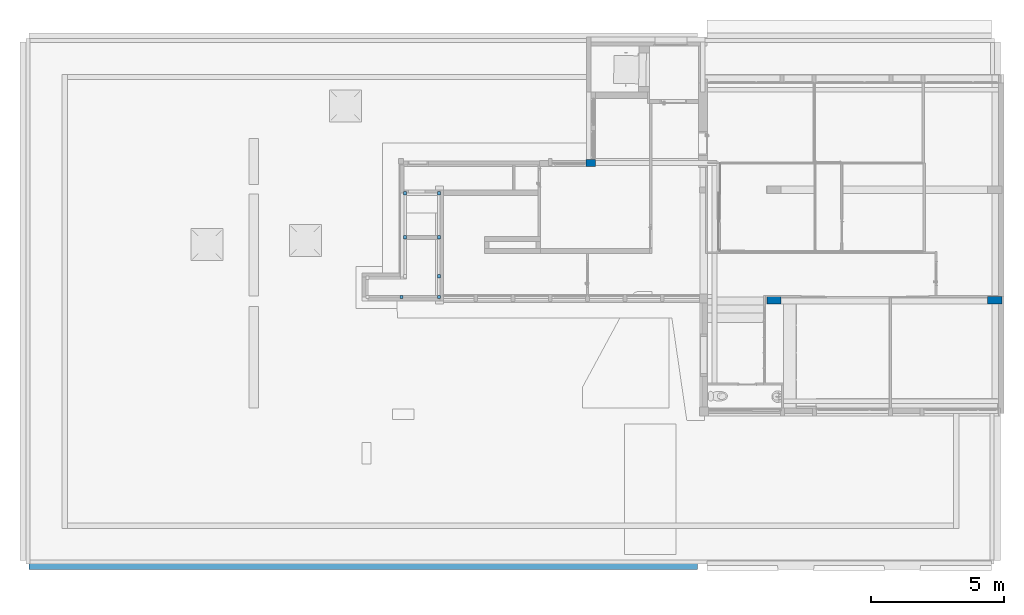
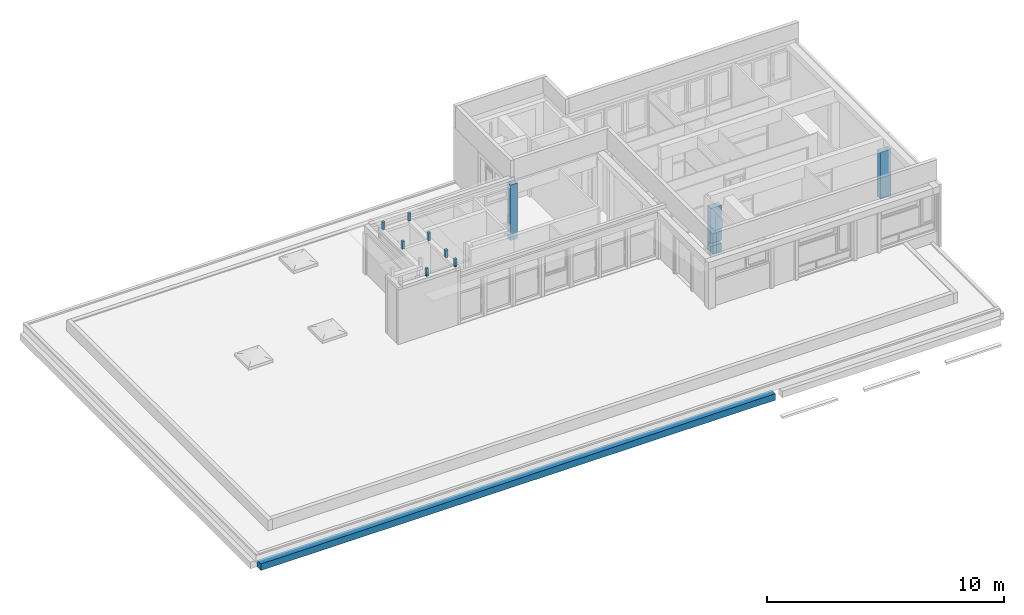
# One storey, part 2 of 49: 10 columns, 1 beam.
"""IFC4 building model written with IfcOpenShell, lengths in metres."""

import ifcopenshell
import ifcopenshell.guid

model = None  # the IFC model being written
_history = None  # IfcOwnerHistory: only IFC2X3 demands one
_inside = {}  # id of a spatial element -> (the spatial element, [elements in it])
_under = {}  # id of a project, library or spatial element -> (it, [spatial elements below it])
_declared = {}  # id of a project -> (the project, [libraries it declares])
_typed = {}  # id of a type object -> (the type object, [elements of that type])
_made_of = {}  # id of a material, layer set ... -> (it, [elements and type objects made of it])


def new_model(schema):
    """Start an empty IFC model of exactly this schema.

    Asked for "IFC4X3", IfcOpenShell would pick the latest addendum, in which some entities
    have other attributes; the version numbers below select the first issue.
    IFC2X3 requires an IfcOwnerHistory on every rooted entity: one is made here for all.
    """
    global model, _history
    if schema == "IFC4X3":
        model = ifcopenshell.file(schema_version=(4, 3, 0, 0))
    else:
        model = ifcopenshell.file(schema=schema)
    _inside.clear()
    _under.clear()
    _declared.clear()
    _typed.clear()
    _made_of.clear()
    _history = None
    if model.schema == "IFC2X3":
        org = make("IfcOrganization", Name="unknown")
        user = make(
            "IfcPersonAndOrganization",
            ThePerson=make("IfcPerson", FamilyName="unknown"),
            TheOrganization=org,
        )
        app = make(
            "IfcApplication",
            ApplicationDeveloper=org,
            Version="unknown",
            ApplicationFullName="unknown",
            ApplicationIdentifier="unknown",
        )
        _history = make(
            "IfcOwnerHistory",
            OwningUser=user,
            OwningApplication=app,
            ChangeAction="ADDED",
            CreationDate=0,
        )
    return model


def make(cls, **values):
    """One entity of the class cls with the attributes given. An attribute that is None is left unset."""
    return model.create_entity(
        cls, **{name: value for name, value in values.items() if value is not None}
    )


def entity(cls, *values):
    """Any entity or typed value of the class cls, its attributes in the order of the schema. None: left unset."""
    e = model.create_entity(cls)
    for i, value in enumerate(values):
        if value is not None:
            e[i] = value
    return e


def rooted(cls, **values):
    """An entity with a GlobalId (a new one), such as an element, a storey or a relation."""
    return make(cls, GlobalId=ifcopenshell.guid.new(), OwnerHistory=_history, **values)


def si_unit(unit_type, name, prefix=None):
    """IfcSIUnit, for example si_unit("LENGTHUNIT", "METRE", prefix="MILLI")."""
    return make("IfcSIUnit", UnitType=unit_type, Prefix=prefix, Name=name)


def converted_unit(unit_type, name, factor, base, dimensions=None, offset=None):
    """IfcConversionBasedUnit, such as the inch: factor (a typed value) times the base unit."""
    return make(
        "IfcConversionBasedUnit"
        if offset is None
        else "IfcConversionBasedUnitWithOffset",
        ConversionOffset=offset,
        Dimensions=None
        if dimensions is None
        else entity("IfcDimensionalExponents", *dimensions),
        UnitType=unit_type,
        Name=name,
        ConversionFactor=make(
            "IfcMeasureWithUnit", ValueComponent=factor, UnitComponent=base
        ),
    )


def derived_unit(unit_type, elements):
    """IfcDerivedUnit: a product of units, each with its exponent."""
    return make(
        "IfcDerivedUnit",
        Elements=[
            make("IfcDerivedUnitElement", Unit=unit, Exponent=power)
            for unit, power in elements
        ],
        UnitType=unit_type,
    )


def assignment(units):
    """IfcUnitAssignment: the units of a project."""
    return None if units is None else make("IfcUnitAssignment", Units=units)


def point(xyz):
    """IfcCartesianPoint."""
    return None if xyz is None else make("IfcCartesianPoint", Coordinates=xyz)


def direction(xyz):
    """IfcDirection."""
    return None if xyz is None else make("IfcDirection", DirectionRatios=xyz)


def frame(location, z_axis=None, x_axis=None):
    """IfcAxis2Placement3D, a coordinate frame: its origin and axes. An axis left out is left unset."""
    return make(
        "IfcAxis2Placement3D",
        Location=point(location),
        Axis=direction(z_axis),
        RefDirection=direction(x_axis),
    )


def origin():
    """The frame at (0, 0, 0) with its axes left unset."""
    return frame((0.0, 0.0, 0.0))


def place(relative_to, where):
    """IfcLocalPlacement: puts the frame where relative to a parent placement (None: the world)."""
    return make(
        "IfcLocalPlacement", PlacementRelTo=relative_to, RelativePlacement=where
    )


def context(
    kind, dimensions, precision=None, world=None, true_north=None, identifier=None
):
    """IfcGeometricRepresentationContext, for example the 3D "Model" context."""
    return make(
        "IfcGeometricRepresentationContext",
        ContextIdentifier=identifier,
        ContextType=kind,
        CoordinateSpaceDimension=dimensions,
        Precision=precision,
        WorldCoordinateSystem=world,
        TrueNorth=true_north,
    )


def subcontext(parent, identifier, kind, view, scale=None):
    """IfcGeometricRepresentationSubContext, for example "Body" below "Model"."""
    return make(
        "IfcGeometricRepresentationSubContext",
        ContextIdentifier=identifier,
        ContextType=kind,
        ParentContext=parent,
        TargetScale=scale,
        TargetView=view,
    )


def project(units=None, contexts=None):
    """IfcProject with its units and contexts."""
    return rooted(
        "IfcProject",
        Name="project",
        RepresentationContexts=contexts,
        UnitsInContext=assignment(units),
    )


def spatial(cls, under=None, at=None, **own):
    """A site, building, storey or space (cls), placed at a placement, below another one or the project."""
    s = rooted(cls, ObjectPlacement=at, **own)
    if under is not None:
        _under.setdefault(under.id(), (under, []))[1].append(s)
    return s


def point_list(points):
    """IfcCartesianPointList2D or 3D."""
    cls = (
        "IfcCartesianPointList2D" if len(points[0]) == 2 else "IfcCartesianPointList3D"
    )
    return make(cls, CoordList=points)


def indexed_curve(points, segments=None, self_intersect=None):
    """IfcIndexedPolyCurve: lines and arcs through numbered points (the first is 1)."""
    return make(
        "IfcIndexedPolyCurve",
        Points=point_list(points),
        Segments=segments,
        SelfIntersect=self_intersect,
    )


def outline(outer, holes=None, kind="AREA"):
    """IfcArbitraryClosedProfileDef: a profile drawn as a closed curve; with holes, ...WithVoids."""
    if holes is None:
        return make("IfcArbitraryClosedProfileDef", ProfileType=kind, OuterCurve=outer)
    return make(
        "IfcArbitraryProfileDefWithVoids",
        ProfileType=kind,
        OuterCurve=outer,
        InnerCurves=holes,
    )


def extrude(swept, where, along, depth):
    """IfcExtrudedAreaSolid: the profile swept, set in the frame where, extruded along a direction by depth."""
    return make(
        "IfcExtrudedAreaSolid",
        SweptArea=swept,
        Position=where,
        ExtrudedDirection=direction(along),
        Depth=depth,
    )


def polygons(points, faces, closed=None, point_numbers=None):
    """IfcPolygonalFaceSet: a face is its outer loop, then its inner loops; points numbered from 1."""
    made = []
    for loops in faces:
        if len(loops) == 1:
            made.append(make("IfcIndexedPolygonalFace", CoordIndex=loops[0]))
        else:
            made.append(
                make(
                    "IfcIndexedPolygonalFaceWithVoids",
                    CoordIndex=loops[0],
                    InnerCoordIndices=loops[1:],
                )
            )
    return make(
        "IfcPolygonalFaceSet",
        Coordinates=point_list(points),
        Closed=closed,
        Faces=made,
        PnIndex=point_numbers,
    )


def shape(context_of_items, identifier, shape_type, items):
    """IfcShapeRepresentation: the items that make up one representation, for example the "Body"."""
    return make(
        "IfcShapeRepresentation",
        ContextOfItems=context_of_items,
        RepresentationIdentifier=identifier,
        RepresentationType=shape_type,
        Items=items,
    )


def source(mapping_origin, context_of_items, identifier, shape_type, items):
    """IfcRepresentationMap: a shape defined once, which mapped items show again and again."""
    return make(
        "IfcRepresentationMap",
        MappingOrigin=mapping_origin,
        MappedRepresentation=shape(context_of_items, identifier, shape_type, items),
    )


def transform(
    local_origin,
    x_axis=None,
    y_axis=None,
    z_axis=None,
    scale=None,
    scale2=None,
    scale3=None,
    uniform=True,
):
    """IfcCartesianTransformationOperator3D, or its non-uniform kind. x_axis, y_axis, z_axis: its Axis1, 2, 3."""
    if uniform:
        return make(
            "IfcCartesianTransformationOperator3D",
            Axis1=direction(x_axis),
            Axis2=direction(y_axis),
            LocalOrigin=point(local_origin),
            Scale=scale,
            Axis3=direction(z_axis),
        )
    return make(
        "IfcCartesianTransformationOperator3DnonUniform",
        Axis1=direction(x_axis),
        Axis2=direction(y_axis),
        LocalOrigin=point(local_origin),
        Scale=scale,
        Axis3=direction(z_axis),
        Scale2=scale2,
        Scale3=scale3,
    )


def mapped(mapping_source, mapping_target):
    """IfcMappedItem: shows the shape of a source again, moved by a transform."""
    return make(
        "IfcMappedItem", MappingSource=mapping_source, MappingTarget=mapping_target
    )


def material(Name=None, Category=None):
    """IfcMaterial."""
    return make("IfcMaterial", Name=Name, Category=Category)


def made_of(thing, what):
    """Note that an element or type object is made of a material, layer set ...; save() writes the relation."""
    if what is not None:
        _made_of.setdefault(what.id(), (what, []))[1].append(thing)
    return thing


def type_object(cls, material=None, **own):
    """A type object (cls), such as IfcWallType, which elements share."""
    return made_of(rooted(cls, **own), material)


def type_shapes(of_type, sources):
    """Give a type object the sources (RepresentationMaps) that its elements show as mapped items."""
    of_type.RepresentationMaps = sources


def element(
    cls,
    number,
    at=None,
    inside=None,
    cuts=None,
    type_object=None,
    material=None,
    context=None,
    identifier="Body",
    shape_type=None,
    held_by="IfcProductDefinitionShape",
    body=None,
    shapes=None,
    **own,
):
    """One element of the class cls, such as IfcWall. Its Tag is "e" and its number.

    at: its placement. inside: the storey or other place that contains it. cuts: it is an
    opening in that element (IfcRelVoidsElement). A single representation is given by context,
    identifier, shape_type and body (its items); several are given by shapes. held_by: the class
    of the entity that holds the representations. save() writes the other relations.
    """
    e = rooted(cls, Tag="e%d" % number, ObjectPlacement=at, **own)
    if body is not None:
        shapes = [shape(context, identifier, shape_type, body)]
    if shapes is not None:
        e.Representation = make(held_by, Representations=shapes)
    if inside is not None:
        _inside.setdefault(inside.id(), (inside, []))[1].append(e)
    if cuts is not None:
        rooted(
            "IfcRelVoidsElement", RelatingBuildingElement=cuts, RelatedOpeningElement=e
        )
    if type_object is not None:
        _typed.setdefault(type_object.id(), (type_object, []))[1].append(e)
    return made_of(e, material)


def aggregate(whole, parts):
    """IfcRelAggregates: a whole, such as a stair, and the parts it consists of."""
    return rooted("IfcRelAggregates", RelatingObject=whole, RelatedObjects=parts)


def save(model, path):
    """Write the relations noted so far, then the file.

    IfcRelAggregates (storeys below a building ...), IfcRelContainedInSpatialStructure (elements
    in a storey), IfcRelDefinesByType, IfcRelAssociatesMaterial and IfcRelDeclares: one each for
    every whole, place, type object, material and project.
    """
    for whole, parts in _under.values():
        aggregate(whole, parts)
    for where, things in _inside.values():
        rooted(
            "IfcRelContainedInSpatialStructure",
            RelatedElements=things,
            RelatingStructure=where,
        )
    for kind, things in _typed.values():
        rooted("IfcRelDefinesByType", RelatedObjects=things, RelatingType=kind)
    for what, things in _made_of.values():
        rooted("IfcRelAssociatesMaterial", RelatedObjects=things, RelatingMaterial=what)
    for by, libraries in _declared.values():
        rooted("IfcRelDeclares", RelatingContext=by, RelatedDefinitions=libraries)
    model.write(path)


model = new_model("IFC4")

# Units and contexts
model_context = context("Model", 3, precision=1e-05, world=origin(), true_north=direction((6.12303176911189e-17, 1.0)))
body_context = subcontext(model_context, "Body", "Model", "MODEL_VIEW")
ifc_project = project(units=[si_unit("LENGTHUNIT", "METRE"), si_unit("AREAUNIT", "SQUARE_METRE"), si_unit("VOLUMEUNIT", "CUBIC_METRE"), converted_unit("PLANEANGLEUNIT", "DEGREE", entity("IfcRatioMeasure", 0.0174532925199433), si_unit("PLANEANGLEUNIT", "RADIAN"), dimensions=[0, 0, 0, 0, 0, 0, 0]), si_unit("MASSUNIT", "GRAM", prefix="KILO"), derived_unit("MASSDENSITYUNIT", [(si_unit("MASSUNIT", "GRAM", prefix="KILO"), 1), (si_unit("LENGTHUNIT", "METRE"), -3)]), derived_unit("MOMENTOFINERTIAUNIT", [(si_unit("LENGTHUNIT", "METRE"), 4)]), si_unit("TIMEUNIT", "SECOND"), si_unit("FREQUENCYUNIT", "HERTZ"), si_unit("THERMODYNAMICTEMPERATUREUNIT", "DEGREE_CELSIUS"), derived_unit("THERMALTRANSMITTANCEUNIT", [(si_unit("MASSUNIT", "GRAM", prefix="KILO"), 1), (si_unit("THERMODYNAMICTEMPERATUREUNIT", "KELVIN"), -1), (si_unit("TIMEUNIT", "SECOND"), -3)]), derived_unit("VOLUMETRICFLOWRATEUNIT", [(si_unit("LENGTHUNIT", "METRE"), 3), (si_unit("TIMEUNIT", "SECOND"), -1)]), si_unit("ELECTRICCURRENTUNIT", "AMPERE"), si_unit("ELECTRICVOLTAGEUNIT", "VOLT"), si_unit("POWERUNIT", "WATT"), si_unit("FORCEUNIT", "NEWTON", prefix="KILO"), si_unit("ILLUMINANCEUNIT", "LUX"), si_unit("LUMINOUSFLUXUNIT", "LUMEN"), si_unit("LUMINOUSINTENSITYUNIT", "CANDELA"), derived_unit("USERDEFINED", [(si_unit("MASSUNIT", "GRAM", prefix="KILO"), -1), (si_unit("LENGTHUNIT", "METRE"), -2), (si_unit("TIMEUNIT", "SECOND"), 3), (si_unit("LUMINOUSFLUXUNIT", "LUMEN"), 1)]), derived_unit("LINEARVELOCITYUNIT", [(si_unit("LENGTHUNIT", "METRE"), 1), (si_unit("TIMEUNIT", "SECOND"), -1)]), si_unit("PRESSUREUNIT", "PASCAL"), derived_unit("USERDEFINED", [(si_unit("LENGTHUNIT", "METRE"), -2), (si_unit("MASSUNIT", "GRAM", prefix="KILO"), 1), (si_unit("TIMEUNIT", "SECOND"), -2)]), derived_unit("LINEARFORCEUNIT", [(si_unit("MASSUNIT", "GRAM", prefix="KILO"), 1), (si_unit("LENGTHUNIT", "METRE"), 1), (si_unit("TIMEUNIT", "SECOND"), -2), (si_unit("LENGTHUNIT", "METRE"), -1)]), derived_unit("PLANARFORCEUNIT", [(si_unit("MASSUNIT", "GRAM", prefix="KILO"), 1), (si_unit("LENGTHUNIT", "METRE"), 1), (si_unit("TIMEUNIT", "SECOND"), -2), (si_unit("LENGTHUNIT", "METRE"), -2)])], contexts=[model_context])

# Site, building, storey
site_placement = place(None, origin())
site = spatial("IfcSite", under=ifc_project, at=site_placement, Name="Default", CompositionType="ELEMENT")
building_placement = place(site_placement, origin())
building = spatial("IfcBuilding", under=site, at=building_placement, Name="HOTEL CONSULAIRE BOULOGNE SUR MER", CompositionType="ELEMENT")
storey_placement = place(building_placement, frame((0.0, 0.0, 6.81974152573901)))
storey = spatial("IfcBuildingStorey", under=building, at=storey_placement, Name="Niveau 2", CompositionType="ELEMENT", Elevation=6.81974152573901)

# Columns
ifc_material_1 = material(Name="Maçonnerie - Béton coulé sur place", Category="Béton")
column_type_1 = type_object("IfcColumnType", Name="Poteau béton - Rectangulaire:270x530", PredefinedType="COLUMN", material=ifc_material_1)
shared_shape_1 = source(origin(), body_context, "Body", "Tessellation", [
    polygons([(4.33146851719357e-15, 0.269999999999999, 1.08286712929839e-15), (0.402000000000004, 0.269999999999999, 1.08286712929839e-15), (0.482000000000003, 0.269999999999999, 1.08286712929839e-15), (0.530000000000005, 0.269999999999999, 1.08286712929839e-15), (0.530000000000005, 0.0, 1.08286712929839e-15), (0.482000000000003, 0.0, 1.08286712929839e-15), (0.482000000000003, 0.232754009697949, 1.08286712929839e-15), (4.33146851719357e-15, 0.232754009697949, 1.08286712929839e-15), (4.33146851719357e-15, 0.269999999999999, 2.437), (0.472702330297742, 0.269999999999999, 2.437), (0.530000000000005, 0.269999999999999, 2.437), (0.530000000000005, 0.0, 2.437), (0.472702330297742, 0.0, 2.437), (4.33146851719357e-15, 0.0, 2.437), (4.33146851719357e-15, 0.0, 0.0350000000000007), (0.402000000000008, 0.0, 0.0350000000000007), (0.482000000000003, 0.0, 0.0350000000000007), (4.33146851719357e-15, 0.232754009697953, 0.0350000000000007), (4.33146851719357e-15, 0.232754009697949, 2.437), (0.482000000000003, 0.232754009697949, 0.0350000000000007)], [[[7, 8, 1, 2, 3, 4, 5, 6]], [[16, 15, 18, 20, 17]], [[10, 11, 4, 3, 2, 1, 9]], [[11, 12, 5, 4]], [[14, 15, 16, 17, 6, 5, 12, 13]], [[18, 8, 7, 20]], [[19, 9, 1, 8, 18, 15, 14]], [[20, 7, 6, 17]], [[10, 9, 19, 14, 13, 12, 11]]], closed=True),
])
type_shapes(column_type_1, [shared_shape_1])
column_1_placement = place(storey_placement, frame((22.185935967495, -19.915909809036, -0.0350000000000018)))
element("IfcColumn", 1, at=column_1_placement, inside=storey, type_object=column_type_1, material=ifc_material_1, Name="Poteau béton - Rectangulaire:270x530", ObjectType="Poteau béton - Rectangulaire:270x530", PredefinedType="COLUMN", context=body_context, shape_type="MappedRepresentation", body=[
    mapped(shared_shape_1, transform((0.0, 0.0, 0.0), scale=1.0)),
])
column_type_2 = type_object("IfcColumnType", Name="Poteau béton - Rectangulaire:270x530", PredefinedType="COLUMN", material=ifc_material_1)
shared_shape_2 = source(origin(), body_context, "Body", "Tessellation", [
    polygons([(0.0, 0.269999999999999, 1.08286712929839e-15), (0.530000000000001, 0.269999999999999, 1.08286712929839e-15), (0.530000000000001, 0.232754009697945, 1.08286712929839e-15), (0.530000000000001, 0.0, 1.08286712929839e-15), (0.0, 0.0, 1.08286712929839e-15), (0.0, 0.232754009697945, 1.08286712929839e-15), (0.0, 0.269999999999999, 2.437), (0.530000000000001, 0.269999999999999, 2.437), (0.530000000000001, 0.232754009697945, 2.437), (0.530000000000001, 0.0, 2.437), (0.530000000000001, 0.0, 0.630000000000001), (0.530000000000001, 0.201883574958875, 0.630000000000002), (0.530000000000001, 0.201883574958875, 0.480000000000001), (0.530000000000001, 0.0, 0.480000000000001), (0.0, 0.0, 2.437), (0.0, 0.0, 0.630000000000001), (0.0, 0.0, 0.480000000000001), (0.0, 0.201883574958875, 0.480000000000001), (0.0, 0.201883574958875, 0.630000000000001), (0.0, 0.232754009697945, 2.437)], [[[4, 5, 6, 1, 2, 3]], [[16, 19, 12, 11]], [[7, 8, 2, 1]], [[10, 11, 12, 13, 14, 4, 3, 2, 8, 9]], [[10, 15, 16, 11]], [[19, 18, 13, 12]], [[14, 17, 5, 4]], [[20, 7, 1, 6, 5, 17, 18, 19, 16, 15]], [[9, 8, 7, 20, 15, 10]], [[14, 13, 18, 17]]], closed=True),
])
type_shapes(column_type_2, [shared_shape_2])
column_2_placement = place(storey_placement, frame((13.9022130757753, -19.915909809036, -0.0350000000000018)))
element("IfcColumn", 2, at=column_2_placement, inside=storey, type_object=column_type_2, material=ifc_material_1, Name="Poteau béton - Rectangulaire:270x530", ObjectType="Poteau béton - Rectangulaire:270x530", PredefinedType="COLUMN", context=body_context, shape_type="MappedRepresentation", body=[
    mapped(shared_shape_2, transform((0.0, 0.0, 0.0), scale=1.0)),
])
ifc_material_2 = material(Name="Acier", Category="Métal")
column_type_3 = type_object("IfcColumnType", Name="poteau:poteau", PredefinedType="COLUMN", material=ifc_material_2)
shared_shape_3 = source(origin(), body_context, "Body", "SweptSolid", [
    extrude(outline(indexed_curve([(-0.0600000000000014, -0.0550000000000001), (0.0599999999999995, -0.0550000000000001), (0.0599999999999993, 0.055), (-0.0600000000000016, 0.055), (-0.0600000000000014, -0.0550000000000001)], self_intersect=False)), frame((0.196635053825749, -15.6952420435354, 10.411641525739), z_axis=(0.0, 0.0, 1.0), x_axis=(0.0, -1.0, 0.0)), (0.0, 0.0, 1.0), 0.393099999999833),
])
type_shapes(column_type_3, [shared_shape_3])
column_3_placement = place(storey_placement, frame((0.130000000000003, -0.072000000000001, -6.81974152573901)))
element("IfcColumn", 3, at=column_3_placement, inside=storey, type_object=column_type_3, material=ifc_material_2, Name="poteau:poteau", ObjectType="poteau:poteau", PredefinedType="COLUMN", context=body_context, shape_type="MappedRepresentation", body=[
    mapped(shared_shape_3, transform((0.0, 0.0, 0.0), scale=1.0)),
])
column_type_4 = type_object("IfcColumnType", Name="poteau2:poteau", PredefinedType="COLUMN", material=ifc_material_2)
shared_shape_4 = source(origin(), body_context, "Body", "SweptSolid", [
    extrude(outline(indexed_curve([(-0.0600000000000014, -0.0550000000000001), (0.0599999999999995, -0.0550000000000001), (0.0599999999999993, 0.055), (-0.0600000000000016, 0.055), (-0.0600000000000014, -0.0550000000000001)], self_intersect=False)), frame((0.196635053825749, -15.6952420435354, 10.411641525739), z_axis=(0.0, 0.0, 1.0), x_axis=(0.0, -1.0, 0.0)), (0.0, 0.0, 1.0), 0.393099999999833),
])
type_shapes(column_type_4, [shared_shape_4])
column_4_placement = place(storey_placement, frame((1.39583625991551, -0.0720000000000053, -6.81974152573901)))
element("IfcColumn", 4, at=column_4_placement, inside=storey, type_object=column_type_4, material=ifc_material_2, Name="poteau2:poteau", ObjectType="poteau2:poteau", PredefinedType="COLUMN", context=body_context, shape_type="MappedRepresentation", body=[
    mapped(shared_shape_4, transform((0.0, 0.0, 0.0), scale=1.0)),
])
column_type_5 = type_object("IfcColumnType", Name="poteau1:poteau", PredefinedType="COLUMN", material=ifc_material_2)
shared_shape_5 = source(origin(), body_context, "Body", "SweptSolid", [
    extrude(outline(indexed_curve([(-0.0600000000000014, -0.0550000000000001), (0.0599999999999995, -0.0550000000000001), (0.0599999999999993, 0.055), (-0.0600000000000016, 0.055), (-0.0600000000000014, -0.0550000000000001)], self_intersect=False)), frame((0.196635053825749, -15.6952420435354, 10.411641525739), z_axis=(0.0, 0.0, 1.0), x_axis=(0.0, -1.0, 0.0)), (0.0, 0.0, 1.0), 0.393099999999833),
])
type_shapes(column_type_5, [shared_shape_5])
column_5_placement = place(storey_placement, frame((0.130000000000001, -1.72465993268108, -6.81974152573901)))
element("IfcColumn", 5, at=column_5_placement, inside=storey, type_object=column_type_5, material=ifc_material_2, Name="poteau1:poteau", ObjectType="poteau1:poteau", PredefinedType="COLUMN", context=body_context, shape_type="MappedRepresentation", body=[
    mapped(shared_shape_5, transform((0.0, 0.0, 0.0), scale=1.0)),
])
column_type_6 = type_object("IfcColumnType", Name="poteau3:poteau", PredefinedType="COLUMN", material=ifc_material_2)
shared_shape_6 = source(origin(), body_context, "Body", "SweptSolid", [
    extrude(outline(indexed_curve([(-0.0600000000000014, -0.0550000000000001), (0.0599999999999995, -0.0550000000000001), (0.0599999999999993, 0.055), (-0.0600000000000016, 0.055), (-0.0600000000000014, -0.0550000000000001)], self_intersect=False)), frame((0.196635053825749, -15.6952420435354, 10.411641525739), z_axis=(0.0, 0.0, 1.0), x_axis=(0.0, -1.0, 0.0)), (0.0, 0.0, 1.0), 0.393099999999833),
])
type_shapes(column_type_6, [shared_shape_6])
column_6_placement = place(storey_placement, frame((1.39583625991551, -1.72465993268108, -6.81974152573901)))
element("IfcColumn", 6, at=column_6_placement, inside=storey, type_object=column_type_6, material=ifc_material_2, Name="poteau3:poteau", ObjectType="poteau3:poteau", PredefinedType="COLUMN", context=body_context, shape_type="MappedRepresentation", body=[
    mapped(shared_shape_6, transform((0.0, 0.0, 0.0), scale=1.0)),
])
column_type_7 = type_object("IfcColumnType", Name="poteau5:poteau", PredefinedType="COLUMN", material=ifc_material_2)
shared_shape_7 = source(origin(), body_context, "Body", "SweptSolid", [
    extrude(outline(indexed_curve([(-0.0600000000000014, -0.0550000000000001), (0.0599999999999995, -0.0550000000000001), (0.0599999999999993, 0.055), (-0.0600000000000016, 0.055), (-0.0600000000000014, -0.0550000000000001)], self_intersect=False)), frame((0.196635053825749, -15.6952420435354, 10.411641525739), z_axis=(0.0, 0.0, 1.0), x_axis=(0.0, -1.0, 0.0)), (0.0, 0.0, 1.0), 0.393099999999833),
])
type_shapes(column_type_7, [shared_shape_7])
column_7_placement = place(storey_placement, frame((1.39583625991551, -3.18465993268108, -6.81974152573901)))
element("IfcColumn", 7, at=column_7_placement, inside=storey, type_object=column_type_7, material=ifc_material_2, Name="poteau5:poteau", ObjectType="poteau5:poteau", PredefinedType="COLUMN", context=body_context, shape_type="MappedRepresentation", body=[
    mapped(shared_shape_7, transform((0.0, 0.0, 0.0), scale=1.0)),
])
column_type_8 = type_object("IfcColumnType", Name="poteau8:poteau", PredefinedType="COLUMN", material=ifc_material_2)
shared_shape_8 = source(origin(), body_context, "Body", "SweptSolid", [
    extrude(outline(indexed_curve([(-0.0600000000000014, -0.0550000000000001), (0.0599999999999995, -0.0550000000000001), (0.0599999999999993, 0.055), (-0.0600000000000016, 0.055), (-0.0600000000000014, -0.0550000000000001)], self_intersect=False)), frame((0.196635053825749, -15.6952420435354, 10.411641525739), z_axis=(0.0, 0.0, 1.0), x_axis=(0.0, -1.0, 0.0)), (0.0, 0.0, 1.0), 0.393099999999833),
])
type_shapes(column_type_8, [shared_shape_8])
column_8_placement = place(storey_placement, frame((0.0, -3.96178381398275, -6.81974152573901)))
element("IfcColumn", 8, at=column_8_placement, inside=storey, type_object=column_type_8, material=ifc_material_2, Name="poteau8:poteau", ObjectType="poteau8:poteau", PredefinedType="COLUMN", context=body_context, shape_type="MappedRepresentation", body=[
    mapped(shared_shape_8, transform((0.0, 0.0, 0.0), scale=1.0)),
])
column_type_9 = type_object("IfcColumnType", Name="poteau9:poteau", PredefinedType="COLUMN", material=ifc_material_2)
shared_shape_9 = source(origin(), body_context, "Body", "SweptSolid", [
    extrude(outline(indexed_curve([(-0.0600000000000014, -0.0550000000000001), (0.0599999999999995, -0.0550000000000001), (0.0599999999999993, 0.055), (-0.0600000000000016, 0.055), (-0.0600000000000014, -0.0550000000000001)], self_intersect=False)), frame((0.196635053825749, -15.6952420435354, 10.411641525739), z_axis=(0.0, 0.0, 1.0), x_axis=(0.0, -1.0, 0.0)), (0.0, 0.0, 1.0), 0.393099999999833),
])
type_shapes(column_type_9, [shared_shape_9])
column_9_placement = place(storey_placement, frame((1.39583625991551, -3.96178381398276, -6.81974152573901)))
element("IfcColumn", 9, at=column_9_placement, inside=storey, type_object=column_type_9, material=ifc_material_2, Name="poteau9:poteau", ObjectType="poteau9:poteau", PredefinedType="COLUMN", context=body_context, shape_type="MappedRepresentation", body=[
    mapped(shared_shape_9, transform((0.0, 0.0, 0.0), scale=1.0)),
])
column_type_10 = type_object("IfcColumnType", Name="Poteau béton - Rectangulaire:270x350", PredefinedType="COLUMN", material=ifc_material_1)
shared_shape_10 = source(origin(), body_context, "Body", "Tessellation", [
    polygons([(1.08286712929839e-15, 0.269999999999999, 1.08286712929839e-15), (0.195512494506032, 0.269999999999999, 1.08286712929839e-15), (0.195512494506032, 0.0499999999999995, 1.08286712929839e-15), (1.08286712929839e-15, 0.0499999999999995, 1.08286712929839e-15), (2.16573425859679e-15, 0.269999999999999, 2.892), (0.0453999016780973, 0.269999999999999, 2.892), (0.350000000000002, 0.269999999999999, 2.892), (0.350000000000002, 0.269999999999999, 2.342), (0.350000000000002, 0.269999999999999, 0.0350000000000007), (0.195512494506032, 0.269999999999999, 0.0350000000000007), (2.16573425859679e-15, 0.269999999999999, 0.677000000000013), (0.350000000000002, 0.0398239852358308, 2.892), (0.350000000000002, 0.0, 2.892), (0.350000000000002, 0.0, 2.857), (0.350000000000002, 0.0, 0.0350000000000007), (1.08286712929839e-15, 0.0, 2.892), (1.08286712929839e-15, 0.0, 2.857), (1.08286712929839e-15, 0.0, 0.0350000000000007), (1.08286712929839e-15, 0.0500000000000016, 0.0350000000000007), (1.08286712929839e-15, 0.125, 2.892), (0.195512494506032, 0.0499999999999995, 0.0350000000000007)], [[[3, 4, 1, 2]], [[21, 10, 9, 15, 18, 19]], [[7, 8, 9, 10, 2, 1, 11, 5, 6]], [[12, 13, 14, 15, 9, 8, 7]], [[21, 3, 2, 10]], [[13, 16, 17, 18, 15, 14]], [[19, 4, 3, 21]], [[20, 5, 11, 1, 4, 19, 18, 17, 16]], [[6, 5, 20, 16, 13, 12, 7]]], closed=True),
])
type_shapes(column_type_10, [shared_shape_10])
column_10_placement = place(storey_placement, frame((7.11346777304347, -14.7629109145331, -0.0350000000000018)))
element("IfcColumn", 10, at=column_10_placement, inside=storey, type_object=column_type_10, material=ifc_material_1, Name="Poteau béton - Rectangulaire:270x350", ObjectType="Poteau béton - Rectangulaire:270x350", PredefinedType="COLUMN", context=body_context, shape_type="MappedRepresentation", body=[
    mapped(shared_shape_10, transform((0.0, 0.0, 0.0), scale=1.0)),
])

# Beam
ifc_material_3 = material(Name="Béton - Béton coulé sur place", Category="Béton")
beam_type = type_object("IfcBeamType", Name="Poutre rectangulaire - Béton:320x340", PredefinedType="BEAM", material=ifc_material_3)
shared_shape_11 = source(origin(), body_context, "Body", "SweptSolid", [
    extrude(outline(indexed_curve([(-0.170000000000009, -0.159999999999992), (0.16999999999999, -0.159999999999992), (0.170000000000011, 0.160000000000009), (-0.169999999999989, 0.160000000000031), (-0.170000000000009, -0.159999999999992)], self_intersect=False)), frame((-13.7939806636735, -29.7240671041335, 6.46174152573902), z_axis=(1.0, 0.0, 0.0), x_axis=(0.0, 0.0, -1.0)), (0.0, 0.0, 1.0), 25.1006189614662),
])
type_shapes(beam_type, [shared_shape_11])
beam_placement = place(storey_placement, frame((0.0, 0.0, -6.81974152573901)))
element("IfcBeam", 11, at=beam_placement, inside=storey, type_object=beam_type, material=ifc_material_3, Name="Poutre rectangulaire - Béton:320x340", ObjectType="Poutre rectangulaire - Béton:320x340", PredefinedType="BEAM", context=body_context, shape_type="MappedRepresentation", body=[
    mapped(shared_shape_11, transform((0.0, 0.0, 0.0), scale=1.0)),
])

save(model, "model.ifc")
